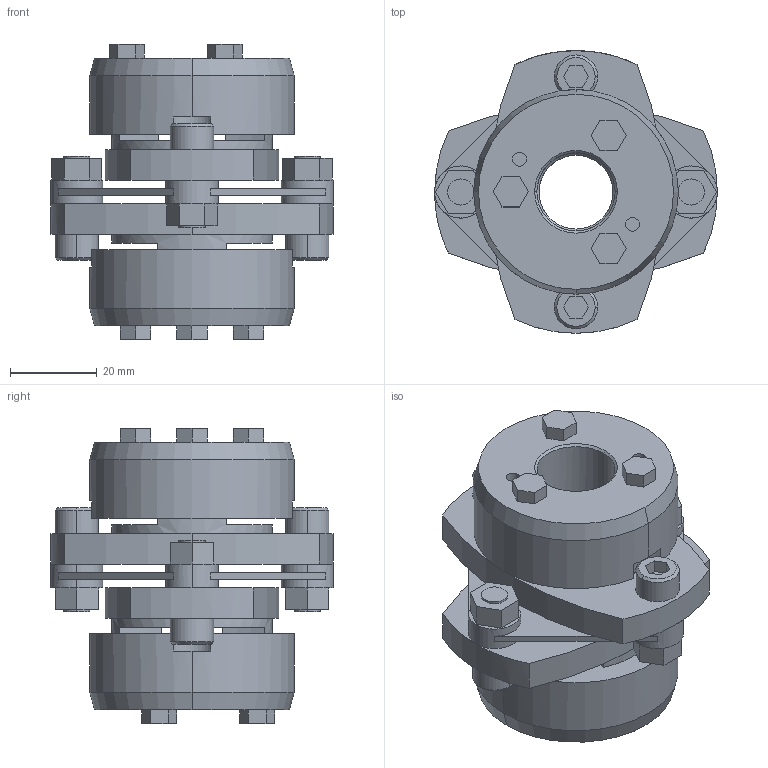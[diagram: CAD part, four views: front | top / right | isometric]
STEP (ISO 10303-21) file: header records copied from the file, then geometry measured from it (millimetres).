
FILE_DESCRIPTION((''),'2;1');
FILE_NAME('LCS-65T7-17×18.stp','2011-08-23T13:17:43',(''),(''),'AutoCAD STEP 2000i','AutoCAD 2000i',', , ');
FILE_SCHEMA(('CONFIG_CONTROL_DESIGN'));
Length unit declared in the file: millimetre
Products named in the file (7): LCS-65T7-17×17; 忣兜1; LC65T7-T017-1; LC65T7-T017; LC65T7-T015-1; LC65T7-T015; LCS65-ITA
Assembly tree (6 placements, depth 2):
  LCS-65T7-17×17
    忣兜1
    LC65T7-T017-1
    LC65T7-T017
    LC65T7-T015-1
    LC65T7-T015
    LCS65-ITA
Bounding box: 65 x 65 x 67.9 mm (x, y, z)
Volume: 92140.8 mm3; surface area: 30100.5 mm2
Topology: 1 solids, 1 shells, 228 faces, 586 edges, 382 vertices
Faces by surface type: plane 136, cylinder 72, cone 20
Entity records: 7167 total; most frequent: DIRECTION 1266, CARTESIAN_POINT 1203, ORIENTED_EDGE 1172, EDGE_CURVE 586, AXIS2_PLACEMENT_3D 445, VERTEX_POINT 382, VECTOR 376, LINE 376
